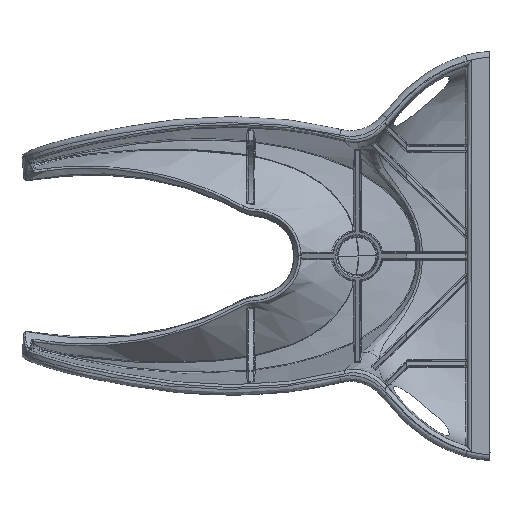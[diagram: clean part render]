
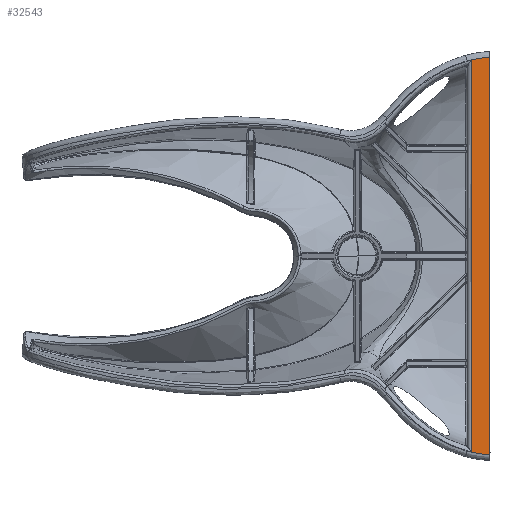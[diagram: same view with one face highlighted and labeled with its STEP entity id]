
A CAD part, front view. The second image highlights one B-rep face of the part: STEP entity #32543.
In plain terms, the highlighted free-form (B-spline) face has degree [1, 1] with [2, 2] control points.
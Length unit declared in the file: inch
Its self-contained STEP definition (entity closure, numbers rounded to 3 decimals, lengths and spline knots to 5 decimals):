
#19643=CARTESIAN_POINT('V2524',(2.93,-1.14092,
   -1.86599));
#19644=VERTEX_POINT('V2524',#19643);
#19763=CARTESIAN_POINT('V2523',(2.93,-1.14092,
   -1.87091));
#19764=VERTEX_POINT('V2523',#19763);
#19775=CARTESIAN_POINT('E354',(2.93,-1.14092,
   -1.87091));
#19776=CARTESIAN_POINT('E354',(2.93,-1.14092,
   -1.86599));
#19777=QUASI_UNIFORM_CURVE('E354',1,(#19775,#19776),.POLYLINE_FORM.,
   .F.,.U.);
#19778=EDGE_CURVE('E354',#19764,#19644,#19777,.T.);
#20160=CARTESIAN_POINT('V2441',(3.15,-1.14093,
   -1.90552));
#20161=VERTEX_POINT('V2441',#20160);
#20173=CARTESIAN_POINT('E353',(3.15,-1.14093,
   -1.90552));
#20174=CARTESIAN_POINT('E353',(3.07573,-1.14093,
   -1.9017));
#20175=CARTESIAN_POINT('E353',(3.00186,-1.14092,
   -1.89005));
#20176=CARTESIAN_POINT('E353',(2.93,-1.14092,
   -1.87091));
#20177=QUASI_UNIFORM_CURVE('E353',3,(#20173,#20174,#20175,#20176),
   .UNSPECIFIED.,.F.,.U.);
#20178=EDGE_CURVE('E353',#20161,#19764,#20177,.T.);
#20188=CARTESIAN_POINT('V2440',(3.15,-1.14093,
   1.90552));
#20189=VERTEX_POINT('V2440',#20188);
#20190=CARTESIAN_POINT('E263',(3.15,-1.14093,
   1.90552));
#20191=CARTESIAN_POINT('E263',(3.15,-1.14093,
   -1.90552));
#20192=QUASI_UNIFORM_CURVE('E263',1,(#20190,#20191),.POLYLINE_FORM.,
   .F.,.U.);
#20193=EDGE_CURVE('E263',#20189,#20161,#20192,.T.);
#20383=CARTESIAN_POINT('V2439',(2.93,-1.14092,
   1.87091));
#20384=VERTEX_POINT('V2439',#20383);
#20395=CARTESIAN_POINT('E262',(2.93,-1.14092,
   1.87091));
#20396=CARTESIAN_POINT('E262',(3.00186,-1.14092,
   1.89005));
#20397=CARTESIAN_POINT('E262',(3.07574,-1.14093,
   1.9017));
#20398=CARTESIAN_POINT('E262',(3.15,-1.14093,
   1.90552));
#20399=QUASI_UNIFORM_CURVE('E262',3,(#20395,#20396,#20397,#20398),
   .UNSPECIFIED.,.F.,.U.);
#20400=EDGE_CURVE('E262',#20384,#20189,#20399,.T.);
#22654=CARTESIAN_POINT('V2411',(2.93001,-1.14092,
   1.86599));
#22655=VERTEX_POINT('V2411',#22654);
#22667=CARTESIAN_POINT('E350',(2.93001,-1.14092,
   1.86599));
#22668=CARTESIAN_POINT('E350',(2.93,-1.14092,
   1.87091));
#22669=QUASI_UNIFORM_CURVE('E350',1,(#22667,#22668),.POLYLINE_FORM.,
   .F.,.U.);
#22670=EDGE_CURVE('E350',#22655,#20384,#22669,.T.);
#32475=CARTESIAN_POINT('V2406',(2.975,-1.14093,
   -1.87722));
#32476=VERTEX_POINT('V2406',#32475);
#32502=CARTESIAN_POINT('E355',(2.93,-1.14092,
   -1.86599));
#32503=CARTESIAN_POINT('E355',(2.93498,-1.14092,
   -1.86734));
#32504=CARTESIAN_POINT('E355',(2.94494,-1.14093,
   -1.86998));
#32505=CARTESIAN_POINT('E355',(2.95994,-1.14093,
   -1.87372));
#32506=CARTESIAN_POINT('E355',(2.96997,-1.14093,
   -1.87608));
#32507=CARTESIAN_POINT('E355',(2.975,-1.14093,
   -1.87722));
#32508=B_SPLINE_CURVE_WITH_KNOTS('E355',3,(#32502,#32503,#32504,
   #32505,#32506,#32507),.UNSPECIFIED.,.F.,.U.,(4,1,1,4),(0.0,
   0.33333,0.66667,1.0),.UNSPECIFIED.);
#32509=EDGE_CURVE('E355',#19644,#32476,#32508,.T.);
#32514=CARTESIAN_POINT('F50',(3.15745,-1.14093,
   1.98174));
#32515=CARTESIAN_POINT('F50',(3.15745,-1.14093,
   -1.98174));
#32516=CARTESIAN_POINT('F50',(2.92255,-1.14093,
   1.98174));
#32517=CARTESIAN_POINT('F50',(2.92255,-1.14093,
   -1.98174));
#32518=B_SPLINE_SURFACE_WITH_KNOTS('F50',1,1,((#32514,#32516),(
   #32515,#32517)),.PLANE_SURF.,.F.,.F.,.U.,(2,2),(2,2),(0.0,
   100.67234),(0.0,5.96622),.UNSPECIFIED.);
#32519=ORIENTED_EDGE('F135',*,*,#32509,.F.);
#32520=ORIENTED_EDGE('F134',*,*,#19778,.F.);
#32521=ORIENTED_EDGE('F212',*,*,#20178,.F.);
#32522=ORIENTED_EDGE('E263',*,*,#20193,.F.);
#32523=ORIENTED_EDGE('F48',*,*,#20400,.F.);
#32524=ORIENTED_EDGE('E350',*,*,#22670,.F.);
#32525=CARTESIAN_POINT('V2408',(2.975,-1.14093,
   1.87722));
#32526=VERTEX_POINT('V2408',#32525);
#32527=CARTESIAN_POINT('E198',(2.975,-1.14093,
   1.87722));
#32528=CARTESIAN_POINT('E198',(2.96997,-1.14093,
   1.87608));
#32529=CARTESIAN_POINT('E198',(2.95994,-1.14093,
   1.87372));
#32530=CARTESIAN_POINT('E198',(2.94494,-1.14093,
   1.86998));
#32531=CARTESIAN_POINT('E198',(2.93498,-1.14092,
   1.86734));
#32532=CARTESIAN_POINT('E198',(2.93001,-1.14092,
   1.86599));
#32533=B_SPLINE_CURVE_WITH_KNOTS('E198',3,(#32527,#32528,#32529,
   #32530,#32531,#32532),.UNSPECIFIED.,.F.,.U.,(4,1,1,4),(0.0,
   0.33333,0.66667,1.0),.UNSPECIFIED.);
#32534=EDGE_CURVE('E198',#32526,#22655,#32533,.T.);
#32535=ORIENTED_EDGE('E198',*,*,#32534,.F.);
#32536=CARTESIAN_POINT('E186',(2.975,-1.14093,
   1.87722));
#32537=CARTESIAN_POINT('E186',(2.975,-1.14093,
   -1.87722));
#32538=QUASI_UNIFORM_CURVE('E186',1,(#32536,#32537),.POLYLINE_FORM.,
   .F.,.U.);
#32539=EDGE_CURVE('E186',#32526,#32476,#32538,.T.);
#32540=ORIENTED_EDGE('E186',*,*,#32539,.T.);
#32541=EDGE_LOOP('F50',(#32519,#32520,#32521,#32522,#32523,#32524,
   #32535,#32540));
#32542=FACE_OUTER_BOUND('F50',#32541,.T.);
#32543=ADVANCED_FACE('F50',(#32542),#32518,.F.);
